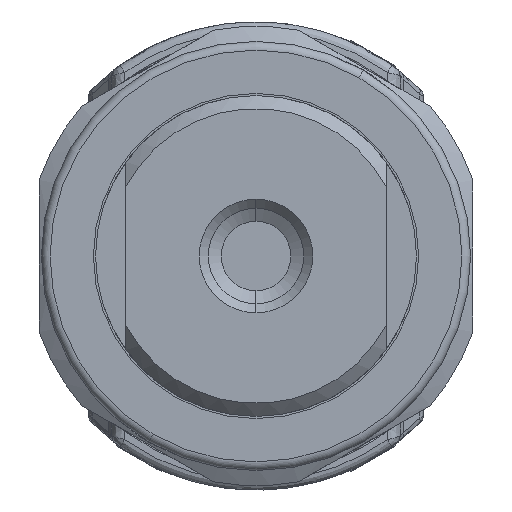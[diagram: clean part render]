
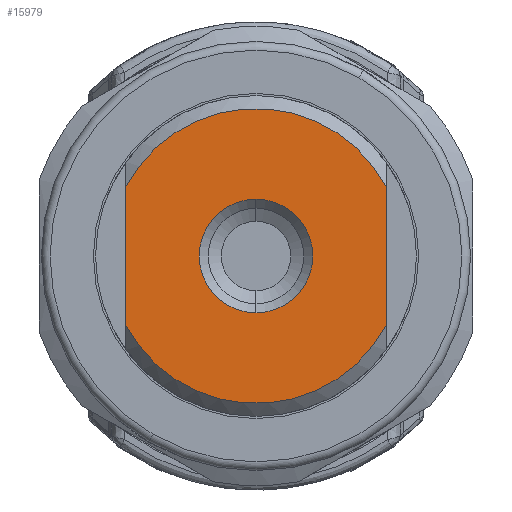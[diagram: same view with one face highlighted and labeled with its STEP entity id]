
A CAD part, front view. The second image highlights one B-rep face of the part: STEP entity #15979.
In plain terms, the highlighted planar face has unit normal (0, -1, 0).
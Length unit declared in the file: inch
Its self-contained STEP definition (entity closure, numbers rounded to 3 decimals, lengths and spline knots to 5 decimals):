
#1044 = DIRECTION ( 'NONE',  ( 0., 0., -1. ) ) ;
#1084 = DIRECTION ( 'NONE',  ( 0., 0., -1. ) ) ;
#2765 = CARTESIAN_POINT ( 'NONE',  ( -0.59055, -8.02756, 0.68898 ) ) ;
#2999 = FACE_BOUND ( 'NONE', #11624, .T. ) ;
#3041 = EDGE_CURVE ( 'NONE', #9459, #22139, #28521, .T. ) ;
#3315 = FACE_OUTER_BOUND ( 'NONE', #29948, .T. ) ;
#3848 = DIRECTION ( 'NONE',  ( 0., 1., 0. ) ) ;
#4082 = CARTESIAN_POINT ( 'NONE',  ( 0.59055, -8.02756, 0.31496 ) ) ;
#4169 = CARTESIAN_POINT ( 'NONE',  ( 0., -8.02756, 0. ) ) ;
#4209 = ORIENTED_EDGE ( 'NONE', *, *, #12120, .T. ) ;
#4586 = ORIENTED_EDGE ( 'NONE', *, *, #18755, .T. ) ;
#5277 = AXIS2_PLACEMENT_3D ( 'NONE', #31128, #21468, #26284 ) ;
#5340 = LINE ( 'NONE', #2765, #28268 ) ;
#5415 = PLANE ( 'NONE',  #22744 ) ;
#5446 = CARTESIAN_POINT ( 'NONE',  ( 0., -8.02756, 0.25787 ) ) ;
#6833 = CIRCLE ( 'NONE', #5277, 0.66929 ) ;
#7602 = DIRECTION ( 'NONE',  ( 0., 0., -1. ) ) ;
#8023 = CARTESIAN_POINT ( 'NONE',  ( 0., -8.02756, 0. ) ) ;
#8628 = CIRCLE ( 'NONE', #26627, 0.25787 ) ;
#8842 = CARTESIAN_POINT ( 'NONE',  ( 0.59055, -8.02756, -0.31496 ) ) ;
#9459 = VERTEX_POINT ( 'NONE', #8842 ) ;
#9830 = CARTESIAN_POINT ( 'NONE',  ( 0.59055, -8.02756, 0.68898 ) ) ;
#10958 = EDGE_CURVE ( 'NONE', #9459, #22672, #21915, .T. ) ;
#10988 = ORIENTED_EDGE ( 'NONE', *, *, #23487, .F. ) ;
#11577 = VERTEX_POINT ( 'NONE', #28872 ) ;
#11624 = EDGE_LOOP ( 'NONE', ( #28740, #4209 ) ) ;
#12120 = EDGE_CURVE ( 'NONE', #31393, #19832, #8628, .T. ) ;
#12717 = DIRECTION ( 'NONE',  ( 0., 0., 1. ) ) ;
#13641 = DIRECTION ( 'NONE',  ( 0., 0., -1. ) ) ;
#14855 = DIRECTION ( 'NONE',  ( 1., 0., 0. ) ) ;
#15979 = ADVANCED_FACE ( 'NONE', ( #3315, #2999 ), #5415, .T. ) ;
#17242 = ORIENTED_EDGE ( 'NONE', *, *, #10958, .T. ) ;
#17570 = DIRECTION ( 'NONE',  ( 0., 1., 0. ) ) ;
#18155 = CIRCLE ( 'NONE', #21233, 0.25787 ) ;
#18755 = EDGE_CURVE ( 'NONE', #11577, #22139, #5340, .T. ) ;
#19832 = VERTEX_POINT ( 'NONE', #26045 ) ;
#21233 = AXIS2_PLACEMENT_3D ( 'NONE', #4169, #3848, #13641 ) ;
#21468 = DIRECTION ( 'NONE',  ( 0., 1., 0. ) ) ;
#21915 = LINE ( 'NONE', #9830, #28142 ) ;
#22139 = VERTEX_POINT ( 'NONE', #28292 ) ;
#22672 = VERTEX_POINT ( 'NONE', #4082 ) ;
#22744 = AXIS2_PLACEMENT_3D ( 'NONE', #23240, #25176, #1044 ) ;
#23240 = CARTESIAN_POINT ( 'NONE',  ( 0., -8.02756, 0. ) ) ;
#23487 = EDGE_CURVE ( 'NONE', #11577, #22672, #6833, .T. ) ;
#24819 = CARTESIAN_POINT ( 'NONE',  ( 0., -8.02756, 0. ) ) ;
#25176 = DIRECTION ( 'NONE',  ( 0., -1., 0. ) ) ;
#25369 = DIRECTION ( 'NONE',  ( 0., 1., 0. ) ) ;
#25937 = EDGE_CURVE ( 'NONE', #19832, #31393, #18155, .T. ) ;
#26045 = CARTESIAN_POINT ( 'NONE',  ( 0., -8.02756, -0.25787 ) ) ;
#26224 = ORIENTED_EDGE ( 'NONE', *, *, #3041, .F. ) ;
#26284 = DIRECTION ( 'NONE',  ( 1., 0., 0. ) ) ;
#26627 = AXIS2_PLACEMENT_3D ( 'NONE', #8023, #25369, #1084 ) ;
#26980 = AXIS2_PLACEMENT_3D ( 'NONE', #24819, #17570, #14855 ) ;
#28142 = VECTOR ( 'NONE', #12717, 39.37008 ) ;
#28268 = VECTOR ( 'NONE', #7602, 39.37008 ) ;
#28292 = CARTESIAN_POINT ( 'NONE',  ( -0.59055, -8.02756, -0.31496 ) ) ;
#28521 = CIRCLE ( 'NONE', #26980, 0.66929 ) ;
#28740 = ORIENTED_EDGE ( 'NONE', *, *, #25937, .T. ) ;
#28872 = CARTESIAN_POINT ( 'NONE',  ( -0.59055, -8.02756, 0.31496 ) ) ;
#29948 = EDGE_LOOP ( 'NONE', ( #17242, #10988, #4586, #26224 ) ) ;
#31128 = CARTESIAN_POINT ( 'NONE',  ( 0., -8.02756, 0. ) ) ;
#31393 = VERTEX_POINT ( 'NONE', #5446 ) ;
